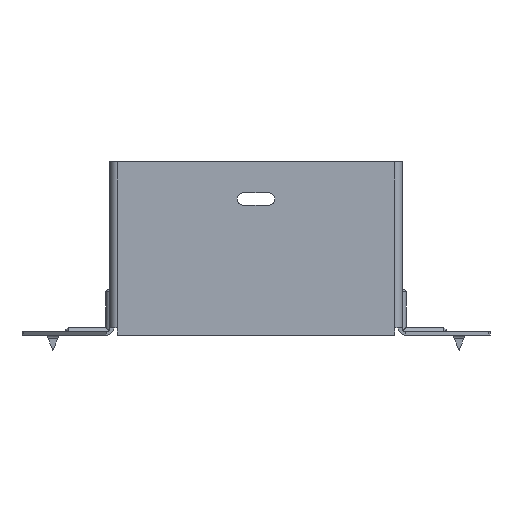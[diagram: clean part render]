
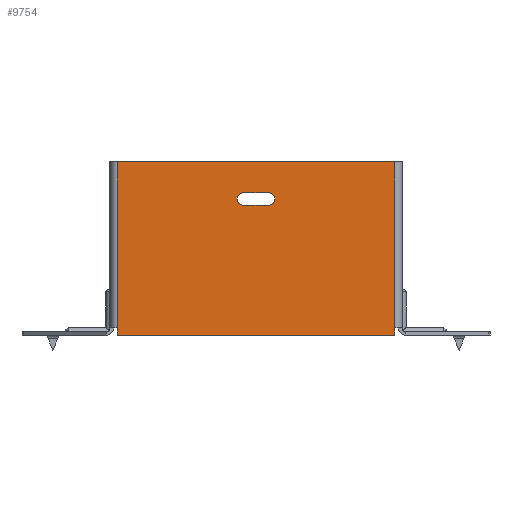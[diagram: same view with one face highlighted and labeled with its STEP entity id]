
A CAD part, front view. The second image highlights one B-rep face of the part: STEP entity #9754.
In plain terms, the highlighted planar face has unit normal (0, -1, 0).
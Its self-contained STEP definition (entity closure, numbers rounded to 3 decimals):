
#166 = DIRECTION ( 'NONE',  ( 0., 0., 1. ) ) ;
#667 = CARTESIAN_POINT ( 'NONE',  ( -56., 0., -67. ) ) ;
#886 = LINE ( 'NONE', #1830, #15288 ) ;
#1072 = ORIENTED_EDGE ( 'NONE', *, *, #10882, .T. ) ;
#1339 = EDGE_CURVE ( 'NONE', #2212, #15604, #886, .T. ) ;
#1830 = CARTESIAN_POINT ( 'NONE',  ( -57.5, 0., -70. ) ) ;
#1908 = VECTOR ( 'NONE', #11810, 1000. ) ;
#1990 = EDGE_CURVE ( 'NONE', #16169, #6751, #6036, .T. ) ;
#2117 = AXIS2_PLACEMENT_3D ( 'NONE', #11854, #9030, #3223 ) ;
#2202 = EDGE_CURVE ( 'NONE', #4451, #9771, #17038, .T. ) ;
#2212 = VERTEX_POINT ( 'NONE', #6727 ) ;
#2532 = CARTESIAN_POINT ( 'NONE',  ( -56., 0., 0. ) ) ;
#2605 = ORIENTED_EDGE ( 'NONE', *, *, #1990, .T. ) ;
#3045 = CARTESIAN_POINT ( 'NONE',  ( 56., 0., 0. ) ) ;
#3223 = DIRECTION ( 'NONE',  ( 0., 0., 1. ) ) ;
#3587 = ORIENTED_EDGE ( 'NONE', *, *, #2202, .F. ) ;
#3779 = VECTOR ( 'NONE', #8026, 1000. ) ;
#3793 = ORIENTED_EDGE ( 'NONE', *, *, #14858, .T. ) ;
#4204 = CIRCLE ( 'NONE', #6387, 2.5 ) ;
#4302 = EDGE_CURVE ( 'NONE', #17705, #4679, #7303, .T. ) ;
#4451 = VERTEX_POINT ( 'NONE', #2532 ) ;
#4594 = CARTESIAN_POINT ( 'NONE',  ( -56., 0., 0. ) ) ;
#4679 = VERTEX_POINT ( 'NONE', #18567 ) ;
#5202 = CARTESIAN_POINT ( 'NONE',  ( -57.5, 0., 0. ) ) ;
#5266 = ORIENTED_EDGE ( 'NONE', *, *, #8065, .T. ) ;
#5747 = ORIENTED_EDGE ( 'NONE', *, *, #6158, .T. ) ;
#5898 = CARTESIAN_POINT ( 'NONE',  ( -5., 0., -12.5 ) ) ;
#6011 = CARTESIAN_POINT ( 'NONE',  ( 5., 0., -17.5 ) ) ;
#6014 = PLANE ( 'NONE',  #2117 ) ;
#6036 = LINE ( 'NONE', #14700, #10318 ) ;
#6098 = CARTESIAN_POINT ( 'NONE',  ( 56., 0., -70. ) ) ;
#6101 = DIRECTION ( 'NONE',  ( 1., 0., 0. ) ) ;
#6158 = EDGE_CURVE ( 'NONE', #4451, #11241, #8140, .T. ) ;
#6387 = AXIS2_PLACEMENT_3D ( 'NONE', #7226, #11668, #166 ) ;
#6568 = CARTESIAN_POINT ( 'NONE',  ( 56., 0., -70. ) ) ;
#6706 = VECTOR ( 'NONE', #6101, 1000. ) ;
#6727 = CARTESIAN_POINT ( 'NONE',  ( 56., 0., -70. ) ) ;
#6751 = VERTEX_POINT ( 'NONE', #9315 ) ;
#7100 = CARTESIAN_POINT ( 'NONE',  ( -5., 0., -15. ) ) ;
#7136 = VECTOR ( 'NONE', #14675, 1000. ) ;
#7173 = EDGE_CURVE ( 'NONE', #11241, #15604, #15671, .T. ) ;
#7177 = VERTEX_POINT ( 'NONE', #7718 ) ;
#7226 = CARTESIAN_POINT ( 'NONE',  ( 5., 0., -15. ) ) ;
#7227 = DIRECTION ( 'NONE',  ( 1., 0., 0. ) ) ;
#7303 = LINE ( 'NONE', #5898, #9093 ) ;
#7718 = CARTESIAN_POINT ( 'NONE',  ( 56., 0., -67. ) ) ;
#7906 = EDGE_LOOP ( 'NONE', ( #2605, #15732, #18345, #3793 ) ) ;
#7968 = CARTESIAN_POINT ( 'NONE',  ( -5., 0., -12.5 ) ) ;
#8026 = DIRECTION ( 'NONE',  ( 0., 0., 1. ) ) ;
#8065 = EDGE_CURVE ( 'NONE', #2212, #7177, #12933, .T. ) ;
#8140 = LINE ( 'NONE', #4594, #18244 ) ;
#8751 = DIRECTION ( 'NONE',  ( -1., 0., 0. ) ) ;
#9030 = DIRECTION ( 'NONE',  ( 0., 1., 0. ) ) ;
#9093 = VECTOR ( 'NONE', #7227, 1000. ) ;
#9315 = CARTESIAN_POINT ( 'NONE',  ( -5., 0., -17.5 ) ) ;
#9754 = ADVANCED_FACE ( 'NONE', ( #11985, #13320 ), #6014, .F. ) ;
#9771 = VERTEX_POINT ( 'NONE', #3045 ) ;
#10318 = VECTOR ( 'NONE', #8751, 1000. ) ;
#10359 = CARTESIAN_POINT ( 'NONE',  ( -56., 0., 0. ) ) ;
#10882 = EDGE_CURVE ( 'NONE', #7177, #9771, #11886, .T. ) ;
#11241 = VERTEX_POINT ( 'NONE', #667 ) ;
#11668 = DIRECTION ( 'NONE',  ( 0., 1., 0. ) ) ;
#11810 = DIRECTION ( 'NONE',  ( 0., 0., 1. ) ) ;
#11854 = CARTESIAN_POINT ( 'NONE',  ( 0., 0., 0. ) ) ;
#11886 = LINE ( 'NONE', #6568, #3779 ) ;
#11960 = EDGE_LOOP ( 'NONE', ( #5747, #12629, #15719, #5266, #1072, #3587 ) ) ;
#11985 = FACE_BOUND ( 'NONE', #7906, .T. ) ;
#12629 = ORIENTED_EDGE ( 'NONE', *, *, #7173, .T. ) ;
#12933 = LINE ( 'NONE', #6098, #1908 ) ;
#13265 = DIRECTION ( 'NONE',  ( 0., 0., -1. ) ) ;
#13320 = FACE_OUTER_BOUND ( 'NONE', #11960, .T. ) ;
#13390 = CARTESIAN_POINT ( 'NONE',  ( -56., 0., -70. ) ) ;
#14675 = DIRECTION ( 'NONE',  ( 0., 0., -1. ) ) ;
#14700 = CARTESIAN_POINT ( 'NONE',  ( -5., 0., -17.5 ) ) ;
#14858 = EDGE_CURVE ( 'NONE', #4679, #16169, #4204, .T. ) ;
#15288 = VECTOR ( 'NONE', #17837, 1000. ) ;
#15604 = VERTEX_POINT ( 'NONE', #13390 ) ;
#15671 = LINE ( 'NONE', #10359, #7136 ) ;
#15712 = EDGE_CURVE ( 'NONE', #6751, #17705, #18097, .T. ) ;
#15719 = ORIENTED_EDGE ( 'NONE', *, *, #1339, .F. ) ;
#15732 = ORIENTED_EDGE ( 'NONE', *, *, #15712, .T. ) ;
#16169 = VERTEX_POINT ( 'NONE', #6011 ) ;
#17038 = LINE ( 'NONE', #5202, #6706 ) ;
#17223 = AXIS2_PLACEMENT_3D ( 'NONE', #7100, #18467, #18342 ) ;
#17705 = VERTEX_POINT ( 'NONE', #7968 ) ;
#17837 = DIRECTION ( 'NONE',  ( -1., 0., 0. ) ) ;
#18097 = CIRCLE ( 'NONE', #17223, 2.5 ) ;
#18244 = VECTOR ( 'NONE', #13265, 1000. ) ;
#18342 = DIRECTION ( 'NONE',  ( 0., 0., 1. ) ) ;
#18345 = ORIENTED_EDGE ( 'NONE', *, *, #4302, .T. ) ;
#18467 = DIRECTION ( 'NONE',  ( 0., 1., 0. ) ) ;
#18567 = CARTESIAN_POINT ( 'NONE',  ( 5., 0., -12.5 ) ) ;
